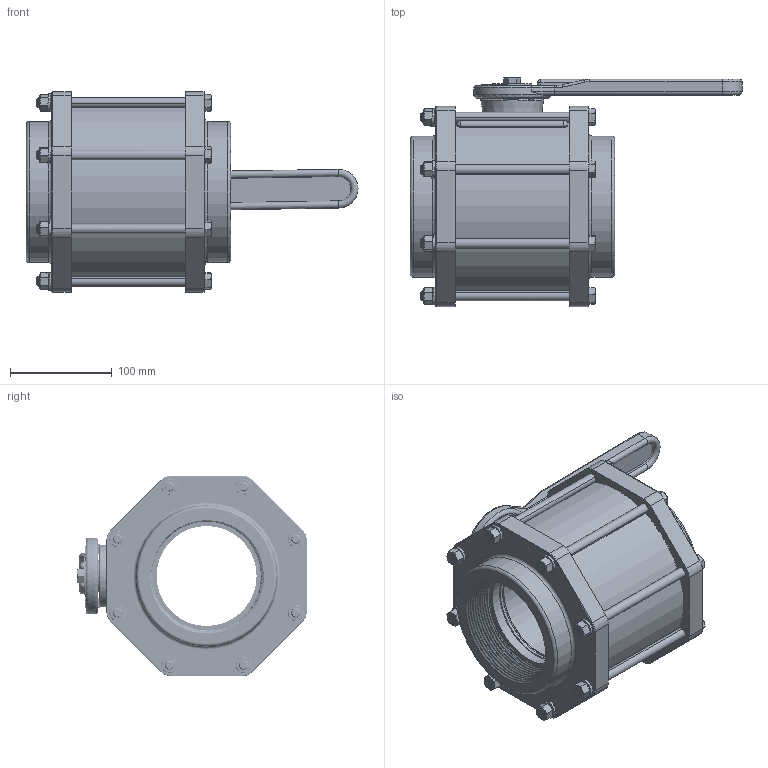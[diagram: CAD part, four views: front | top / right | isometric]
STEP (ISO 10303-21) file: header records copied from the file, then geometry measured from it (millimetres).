
FILE_DESCRIPTION(/* description */ ('Alibre Inc.'),/* implementation_level */ '2;1');
FILE_NAME(/* name */ 'export0',/* time_stamp */ '2017-05-17T11:39:35-04:00',/* author */ (''),/* organization */ (''),/* preprocessor_version */ 'ST-DEVELOPER v14',/* originating_system */ 'Alibre',/* authorisation */ '');
FILE_SCHEMA (('CONFIG_CONTROL_DESIGN'));
Products named in the file (16): ID_1; ID_2; ID_3; ID_4; ID_5; ID_6; ID_7; ID_8; ID_9; ID_10; ID_11; ID_12
Bounding box: 326.36 x 225.54 x 196.85 mm (x, y, z)
Volume: 3018549.7 mm3; surface area: 606145.5 mm2
Topology: 38 solids, 38 shells, 1480 faces, 3768 edges, 2401 vertices
Faces by surface type: cylinder 616, plane 354, cone 297, bspline 138, torus 58, sphere 17
Full cylindrical faces by diameter (mm): 7.798 x1, 9.906 x1, 10.668 x16, 24.638 x1, 26.416 x2, 31.75 x3, 32.004 x1, 37.084 x2, 98.298 x2, 99.06 x1, 99.314 x2, 115.57 x4, 138.684 x2, 151.13 x2, 154.432 x1, 159.004 x2, 166.116 x2, 178.562 x2, 180.848 x1
Entity records: 67087 total; most frequent: CARTESIAN_POINT 51930, ORIENTED_EDGE 2914, DIRECTION 2166, EDGE_CURVE 1457, VERTEX_POINT 962, AXIS2_PLACEMENT_3D 889, FACE_BOUND 729, EDGE_LOOP 727
